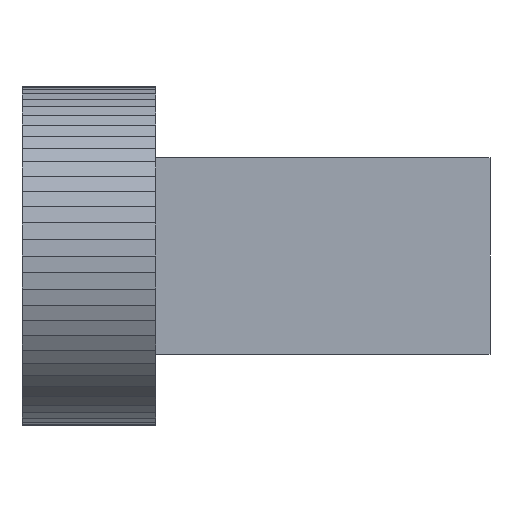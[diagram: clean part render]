
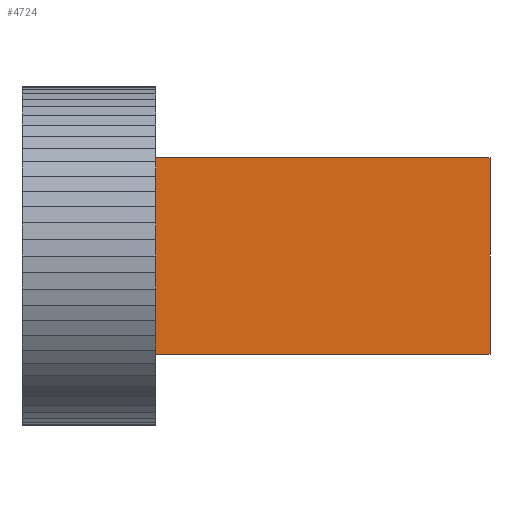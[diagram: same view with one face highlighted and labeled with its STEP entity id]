
A CAD part, left-side view. The second image highlights one B-rep face of the part: STEP entity #4724.
In plain terms, the highlighted planar face has unit normal (-1, 0, 0).
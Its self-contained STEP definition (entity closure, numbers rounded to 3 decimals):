
#44 = PLANE('',#45);
#45 = AXIS2_PLACEMENT_3D('',#46,#47,#48);
#46 = CARTESIAN_POINT('',(33.41,30.,0.));
#47 = DIRECTION('',(0.,1.,0.));
#48 = DIRECTION('',(0.,-0.,1.));
#4561 = PLANE('',#4562);
#4562 = AXIS2_PLACEMENT_3D('',#4563,#4564,#4565);
#4563 = CARTESIAN_POINT('',(70.,-7.5,11.));
#4564 = DIRECTION('',(0.,0.,1.));
#4565 = DIRECTION('',(1.,0.,0.));
#4589 = PLANE('',#4590);
#4590 = AXIS2_PLACEMENT_3D('',#4591,#4592,#4593);
#4591 = CARTESIAN_POINT('',(70.,-7.5,-11.));
#4592 = DIRECTION('',(0.,1.,0.));
#4593 = DIRECTION('',(0.,0.,1.));
#4617 = PLANE('',#4618);
#4618 = AXIS2_PLACEMENT_3D('',#4619,#4620,#4621);
#4619 = CARTESIAN_POINT('',(70.,-7.5,-11.));
#4620 = DIRECTION('',(0.,0.,1.));
#4621 = DIRECTION('',(1.,0.,0.));
#4654 = EDGE_CURVE('',#4655,#4657,#4659,.T.);
#4655 = VERTEX_POINT('',#4656);
#4656 = CARTESIAN_POINT('',(70.,-7.5,-11.));
#4657 = VERTEX_POINT('',#4658);
#4658 = CARTESIAN_POINT('',(70.,30.,-11.));
#4659 = SURFACE_CURVE('',#4660,(#4664,#4671),.PCURVE_S1.);
#4660 = LINE('',#4661,#4662);
#4661 = CARTESIAN_POINT('',(70.,-7.5,-11.));
#4662 = VECTOR('',#4663,1.);
#4663 = DIRECTION('',(0.,1.,0.));
#4664 = PCURVE('',#4617,#4665);
#4665 = DEFINITIONAL_REPRESENTATION('',(#4666),#4670);
#4666 = LINE('',#4667,#4668);
#4667 = CARTESIAN_POINT('',(0.,0.));
#4668 = VECTOR('',#4669,1.);
#4669 = DIRECTION('',(0.,1.));
#4670 = ( GEOMETRIC_REPRESENTATION_CONTEXT(2) 
PARAMETRIC_REPRESENTATION_CONTEXT() REPRESENTATION_CONTEXT('2D SPACE',''
  ) );
#4671 = PCURVE('',#4672,#4677);
#4672 = PLANE('',#4673);
#4673 = AXIS2_PLACEMENT_3D('',#4674,#4675,#4676);
#4674 = CARTESIAN_POINT('',(70.,-7.5,-11.));
#4675 = DIRECTION('',(1.,0.,0.));
#4676 = DIRECTION('',(0.,0.,1.));
#4677 = DEFINITIONAL_REPRESENTATION('',(#4678),#4682);
#4678 = LINE('',#4679,#4680);
#4679 = CARTESIAN_POINT('',(0.,0.));
#4680 = VECTOR('',#4681,1.);
#4681 = DIRECTION('',(0.,-1.));
#4682 = ( GEOMETRIC_REPRESENTATION_CONTEXT(2) 
PARAMETRIC_REPRESENTATION_CONTEXT() REPRESENTATION_CONTEXT('2D SPACE',''
  ) );
#4724 = ADVANCED_FACE('',(#4725),#4672,.F.);
#4725 = FACE_BOUND('',#4726,.F.);
#4726 = EDGE_LOOP('',(#4727,#4752,#4773,#4774));
#4727 = ORIENTED_EDGE('',*,*,#4728,.F.);
#4728 = EDGE_CURVE('',#4729,#4731,#4733,.T.);
#4729 = VERTEX_POINT('',#4730);
#4730 = CARTESIAN_POINT('',(70.,-7.5,11.));
#4731 = VERTEX_POINT('',#4732);
#4732 = CARTESIAN_POINT('',(70.,30.,11.));
#4733 = SURFACE_CURVE('',#4734,(#4738,#4745),.PCURVE_S1.);
#4734 = LINE('',#4735,#4736);
#4735 = CARTESIAN_POINT('',(70.,-7.5,11.));
#4736 = VECTOR('',#4737,1.);
#4737 = DIRECTION('',(0.,1.,0.));
#4738 = PCURVE('',#4672,#4739);
#4739 = DEFINITIONAL_REPRESENTATION('',(#4740),#4744);
#4740 = LINE('',#4741,#4742);
#4741 = CARTESIAN_POINT('',(22.,0.));
#4742 = VECTOR('',#4743,1.);
#4743 = DIRECTION('',(0.,-1.));
#4744 = ( GEOMETRIC_REPRESENTATION_CONTEXT(2) 
PARAMETRIC_REPRESENTATION_CONTEXT() REPRESENTATION_CONTEXT('2D SPACE',''
  ) );
#4745 = PCURVE('',#4561,#4746);
#4746 = DEFINITIONAL_REPRESENTATION('',(#4747),#4751);
#4747 = LINE('',#4748,#4749);
#4748 = CARTESIAN_POINT('',(0.,0.));
#4749 = VECTOR('',#4750,1.);
#4750 = DIRECTION('',(0.,1.));
#4751 = ( GEOMETRIC_REPRESENTATION_CONTEXT(2) 
PARAMETRIC_REPRESENTATION_CONTEXT() REPRESENTATION_CONTEXT('2D SPACE',''
  ) );
#4752 = ORIENTED_EDGE('',*,*,#4753,.F.);
#4753 = EDGE_CURVE('',#4655,#4729,#4754,.T.);
#4754 = SURFACE_CURVE('',#4755,(#4759,#4766),.PCURVE_S1.);
#4755 = LINE('',#4756,#4757);
#4756 = CARTESIAN_POINT('',(70.,-7.5,-11.));
#4757 = VECTOR('',#4758,1.);
#4758 = DIRECTION('',(0.,0.,1.));
#4759 = PCURVE('',#4672,#4760);
#4760 = DEFINITIONAL_REPRESENTATION('',(#4761),#4765);
#4761 = LINE('',#4762,#4763);
#4762 = CARTESIAN_POINT('',(0.,0.));
#4763 = VECTOR('',#4764,1.);
#4764 = DIRECTION('',(1.,0.));
#4765 = ( GEOMETRIC_REPRESENTATION_CONTEXT(2) 
PARAMETRIC_REPRESENTATION_CONTEXT() REPRESENTATION_CONTEXT('2D SPACE',''
  ) );
#4766 = PCURVE('',#4589,#4767);
#4767 = DEFINITIONAL_REPRESENTATION('',(#4768),#4772);
#4768 = LINE('',#4769,#4770);
#4769 = CARTESIAN_POINT('',(0.,0.));
#4770 = VECTOR('',#4771,1.);
#4771 = DIRECTION('',(1.,0.));
#4772 = ( GEOMETRIC_REPRESENTATION_CONTEXT(2) 
PARAMETRIC_REPRESENTATION_CONTEXT() REPRESENTATION_CONTEXT('2D SPACE',''
  ) );
#4773 = ORIENTED_EDGE('',*,*,#4654,.T.);
#4774 = ORIENTED_EDGE('',*,*,#4775,.F.);
#4775 = EDGE_CURVE('',#4731,#4657,#4776,.T.);
#4776 = SURFACE_CURVE('',#4777,(#4781,#4787),.PCURVE_S1.);
#4777 = LINE('',#4778,#4779);
#4778 = CARTESIAN_POINT('',(70.,30.,-5.5));
#4779 = VECTOR('',#4780,1.);
#4780 = DIRECTION('',(0.,0.,-1.));
#4781 = PCURVE('',#4672,#4782);
#4782 = DEFINITIONAL_REPRESENTATION('',(#4783),#4786);
#4783 = B_SPLINE_CURVE_WITH_KNOTS('',1,(#4784,#4785),.UNSPECIFIED.,.F.,
  .F.,(2,2),(-16.5,5.5),.PIECEWISE_BEZIER_KNOTS.);
#4784 = CARTESIAN_POINT('',(22.,-37.5));
#4785 = CARTESIAN_POINT('',(0.,-37.5));
#4786 = ( GEOMETRIC_REPRESENTATION_CONTEXT(2) 
PARAMETRIC_REPRESENTATION_CONTEXT() REPRESENTATION_CONTEXT('2D SPACE',''
  ) );
#4787 = PCURVE('',#44,#4788);
#4788 = DEFINITIONAL_REPRESENTATION('',(#4789),#4792);
#4789 = B_SPLINE_CURVE_WITH_KNOTS('',1,(#4790,#4791),.UNSPECIFIED.,.F.,
  .F.,(2,2),(-16.5,5.5),.PIECEWISE_BEZIER_KNOTS.);
#4790 = CARTESIAN_POINT('',(11.,36.59));
#4791 = CARTESIAN_POINT('',(-11.,36.59));
#4792 = ( GEOMETRIC_REPRESENTATION_CONTEXT(2) 
PARAMETRIC_REPRESENTATION_CONTEXT() REPRESENTATION_CONTEXT('2D SPACE',''
  ) );
